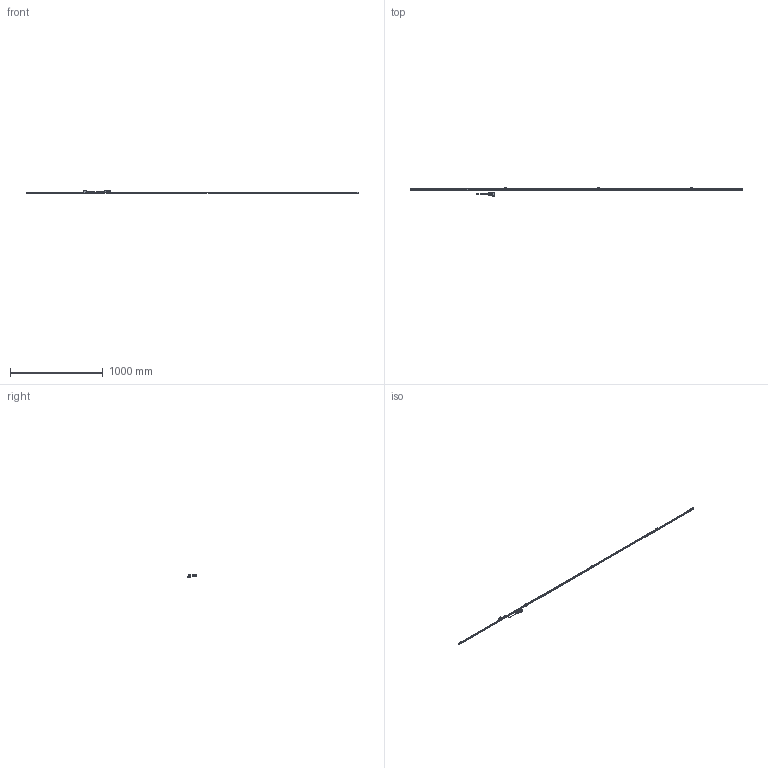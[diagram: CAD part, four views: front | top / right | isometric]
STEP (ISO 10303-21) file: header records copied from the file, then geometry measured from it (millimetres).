
FILE_DESCRIPTION(('Creo Elements/Direct Modeling STEP Export'),'2;1');
FILE_NAME('ST1300-3400D.stp','2018-03-01T14:12:29',(''),(''),'Creo Elements/Direct Modeling STEP processor for AP214 (Solid Model)','Creo Elements/Direct Modeling 18.1B 29-Sep-2012 (C) Parametric Technology GmbH','');
FILE_SCHEMA(('AUTOMOTIVE_DESIGN { 1 0 10303 214 1 1 1 1 }'));
Length unit declared in the file: millimetre
Products named in the file (4): Scale_3400; Connector; Detector_Head; ST1300-3400D
Assembly tree (3 placements, depth 2):
  ST1300-3400D
    Detector_Head
    Connector
    Scale_3400
Bounding box: 3573 x 88.3 x 30.1 mm (x, y, z)
Volume: 316238.9 mm3; surface area: 207515.7 mm2
Topology: 2 solids, 10 shells, 4444 faces, 12040 edges, 7797 vertices
Faces by surface type: plane 2044, cylinder 1794, extrusion 430, cone 111, torus 38, bspline 23, revolution 4
Entity records: 145930 total; most frequent: CARTESIAN_POINT 34918, ORIENTED_EDGE 24056, DIRECTION 21406, EDGE_CURVE 12024, VERTEX_POINT 7797, VECTOR 7346, AXIS2_PLACEMENT_3D 7027, LINE 6942
